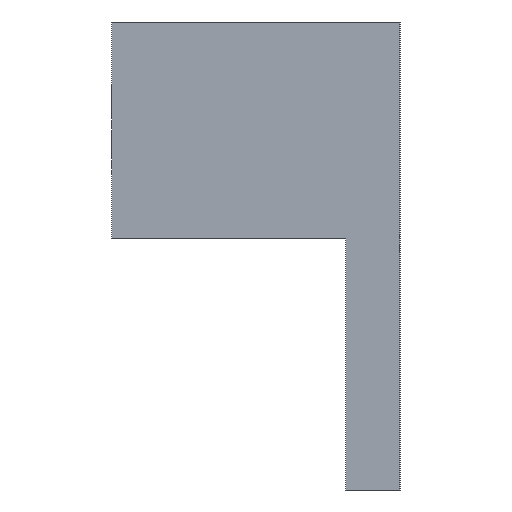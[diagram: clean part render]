
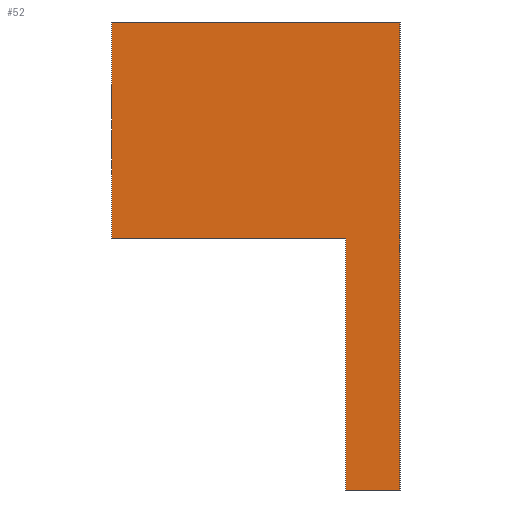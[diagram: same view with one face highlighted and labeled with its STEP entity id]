
A CAD part, left-side view. The second image highlights one B-rep face of the part: STEP entity #52.
In plain terms, the highlighted planar face has unit normal (-1, 0, 0).
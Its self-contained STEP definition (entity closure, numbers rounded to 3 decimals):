
#52 = ADVANCED_FACE( '', ( #103 ), #104, .F. );
#103 = FACE_OUTER_BOUND( '', #150, .T. );
#104 = PLANE( '', #151 );
#150 = EDGE_LOOP( '', ( #222, #223, #224, #225, #226, #227 ) );
#151 = AXIS2_PLACEMENT_3D( '', #228, #229, #230 );
#222 = ORIENTED_EDGE( '', *, *, #281, .F. );
#223 = ORIENTED_EDGE( '', *, *, #285, .F. );
#224 = ORIENTED_EDGE( '', *, *, #277, .F. );
#225 = ORIENTED_EDGE( '', *, *, #257, .F. );
#226 = ORIENTED_EDGE( '', *, *, #265, .F. );
#227 = ORIENTED_EDGE( '', *, *, #269, .F. );
#228 = CARTESIAN_POINT( '', ( -10., 0., 0. ) );
#229 = DIRECTION( '', ( 1., 0., 0. ) );
#230 = DIRECTION( '', ( 0., 0., -1. ) );
#257 = EDGE_CURVE( '', #291, #292, #293, .T. );
#265 = EDGE_CURVE( '', #305, #291, #306, .T. );
#269 = EDGE_CURVE( '', #311, #305, #312, .T. );
#277 = EDGE_CURVE( '', #292, #323, #324, .T. );
#281 = EDGE_CURVE( '', #329, #311, #330, .T. );
#285 = EDGE_CURVE( '', #323, #329, #335, .T. );
#291 = VERTEX_POINT( '', #341 );
#292 = VERTEX_POINT( '', #342 );
#293 = LINE( '', #343, #344 );
#305 = VERTEX_POINT( '', #359 );
#306 = LINE( '', #360, #361 );
#311 = VERTEX_POINT( '', #368 );
#312 = LINE( '', #369, #370 );
#323 = VERTEX_POINT( '', #383 );
#324 = LINE( '', #384, #385 );
#329 = VERTEX_POINT( '', #392 );
#330 = LINE( '', #393, #394 );
#335 = LINE( '', #401, #402 );
#341 = CARTESIAN_POINT( '', ( -10., -13., -20. ) );
#342 = CARTESIAN_POINT( '', ( -10., -13., -6. ) );
#343 = CARTESIAN_POINT( '', ( -10., -13., -20. ) );
#344 = VECTOR( '', #408, 1000. );
#359 = CARTESIAN_POINT( '', ( -10., -16., -20. ) );
#360 = CARTESIAN_POINT( '', ( -10., -16., -20. ) );
#361 = VECTOR( '', #418, 1000. );
#368 = CARTESIAN_POINT( '', ( -10., -16., 6. ) );
#369 = CARTESIAN_POINT( '', ( -10., -16., 6. ) );
#370 = VECTOR( '', #421, 1000. );
#383 = CARTESIAN_POINT( '', ( -10., 0., -6. ) );
#384 = CARTESIAN_POINT( '', ( -10., -13., -6. ) );
#385 = VECTOR( '', #430, 1000. );
#392 = CARTESIAN_POINT( '', ( -10., 0., 6. ) );
#393 = CARTESIAN_POINT( '', ( -10., 0., 6. ) );
#394 = VECTOR( '', #433, 1000. );
#401 = CARTESIAN_POINT( '', ( -10., 0., -6. ) );
#402 = VECTOR( '', #436, 1000. );
#408 = DIRECTION( '', ( 0., 0., 1. ) );
#418 = DIRECTION( '', ( 0., 1., 0. ) );
#421 = DIRECTION( '', ( 0., 0., -1. ) );
#430 = DIRECTION( '', ( 0., 1., 0. ) );
#433 = DIRECTION( '', ( 0., -1., 0. ) );
#436 = DIRECTION( '', ( 0., 0., 1. ) );
